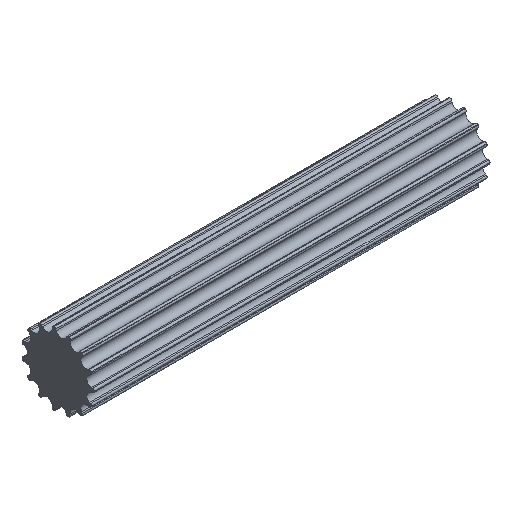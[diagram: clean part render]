
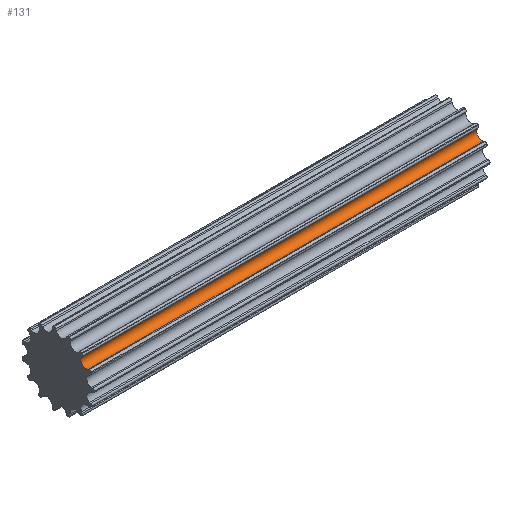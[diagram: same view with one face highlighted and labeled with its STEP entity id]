
A CAD part, isometric view. The second image highlights one B-rep face of the part: STEP entity #131.
In plain terms, the highlighted cylindrical face has radius 2.675 mm (diameter 5.35 mm), a partial arc.
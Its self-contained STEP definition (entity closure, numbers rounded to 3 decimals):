
#131 = ADVANCED_FACE( '', ( #280 ), #281, .F. );
#280 = FACE_OUTER_BOUND( '', #464, .T. );
#281 = CYLINDRICAL_SURFACE( '', #465, 2.675 );
#464 = EDGE_LOOP( '', ( #1100, #1101, #1102, #1103 ) );
#465 = AXIS2_PLACEMENT_3D( '', #1104, #1105, #1106 );
#1100 = ORIENTED_EDGE( '', *, *, #1487, .T. );
#1101 = ORIENTED_EDGE( '', *, *, #1591, .F. );
#1102 = ORIENTED_EDGE( '', *, *, #1414, .F. );
#1103 = ORIENTED_EDGE( '', *, *, #1590, .T. );
#1104 = CARTESIAN_POINT( '', ( 0., -14.396, 10.46 ) );
#1105 = DIRECTION( '', ( -1., 0., 0. ) );
#1106 = DIRECTION( '', ( 0., 0.588, 0.809 ) );
#1414 = EDGE_CURVE( '', #1742, #1744, #1745, .T. );
#1487 = EDGE_CURVE( '', #1884, #1882, #1885, .T. );
#1590 = EDGE_CURVE( '', #1742, #1884, #2040, .T. );
#1591 = EDGE_CURVE( '', #1744, #1882, #2041, .T. );
#1742 = VERTEX_POINT( '', #2215 );
#1744 = VERTEX_POINT( '', #2218 );
#1745 = CIRCLE( '', #2219, 2.675 );
#1882 = VERTEX_POINT( '', #2383 );
#1884 = VERTEX_POINT( '', #2386 );
#1885 = CIRCLE( '', #2387, 2.675 );
#2040 = LINE( '', #2608, #2609 );
#2041 = LINE( '', #2610, #2611 );
#2215 = CARTESIAN_POINT( '', ( 0., -15.161, 7.896 ) );
#2218 = CARTESIAN_POINT( '', ( 0., -12.195, 11.979 ) );
#2219 = AXIS2_PLACEMENT_3D( '', #2810, #2811, #2812 );
#2383 = CARTESIAN_POINT( '', ( 200., -12.195, 11.979 ) );
#2386 = CARTESIAN_POINT( '', ( 200., -15.161, 7.896 ) );
#2387 = AXIS2_PLACEMENT_3D( '', #2973, #2974, #2975 );
#2608 = CARTESIAN_POINT( '', ( 0., -15.161, 7.896 ) );
#2609 = VECTOR( '', #3150, 1000. );
#2610 = CARTESIAN_POINT( '', ( 0., -12.195, 11.979 ) );
#2611 = VECTOR( '', #3151, 1000. );
#2810 = CARTESIAN_POINT( '', ( 0., -14.396, 10.46 ) );
#2811 = DIRECTION( '', ( 1., 0., 0. ) );
#2812 = DIRECTION( '', ( 0., 0.588, 0.809 ) );
#2973 = CARTESIAN_POINT( '', ( 200., -14.396, 10.46 ) );
#2974 = DIRECTION( '', ( 1., 0., 0. ) );
#2975 = DIRECTION( '', ( 0., 0.588, 0.809 ) );
#3150 = DIRECTION( '', ( 1., 0., 0. ) );
#3151 = DIRECTION( '', ( 1., 0., 0. ) );
